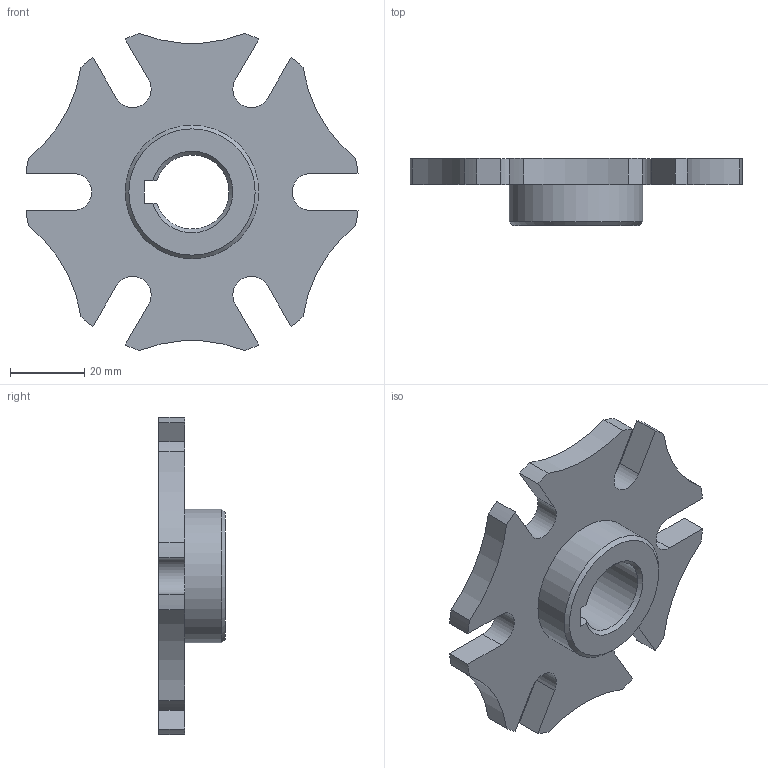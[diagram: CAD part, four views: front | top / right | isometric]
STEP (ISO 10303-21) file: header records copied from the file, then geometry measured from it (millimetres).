
FILE_DESCRIPTION(/* description */ (''),/* implementation_level */ '2;1');
FILE_NAME(/* name */ '',/* time_stamp */ '2025-09-02T10:44:42+09:00',/* author */ ('jhkim'),/* organization */ (''),/* preprocessor_version */ 'ST-DEVELOPER v20.1',/* originating_system */ 'Autodesk Inventor 2026',/* authorisation */ '');
FILE_SCHEMA (('AUTOMOTIVE_DESIGN { 1 0 10303 214 3 1 1 }'));
Length unit declared in the file: millimetre
Products named in the file (1): 슬롯
Bounding box: 89.44 x 18 x 85.45 mm (x, y, z)
Volume: 38618.3 mm3; surface area: 14587.7 mm2
Topology: 1 solids, 1 shells, 46 faces, 129 edges, 86 vertices
Faces by surface type: cylinder 26, plane 18, cone 2
Full cylindrical faces by diameter (mm): 36 x1
Entity records: 1553 total; most frequent: DIRECTION 276, CARTESIAN_POINT 266, ORIENTED_EDGE 258, EDGE_CURVE 129, AXIS2_PLACEMENT_3D 102, VERTEX_POINT 86, LINE 72, VECTOR 72
